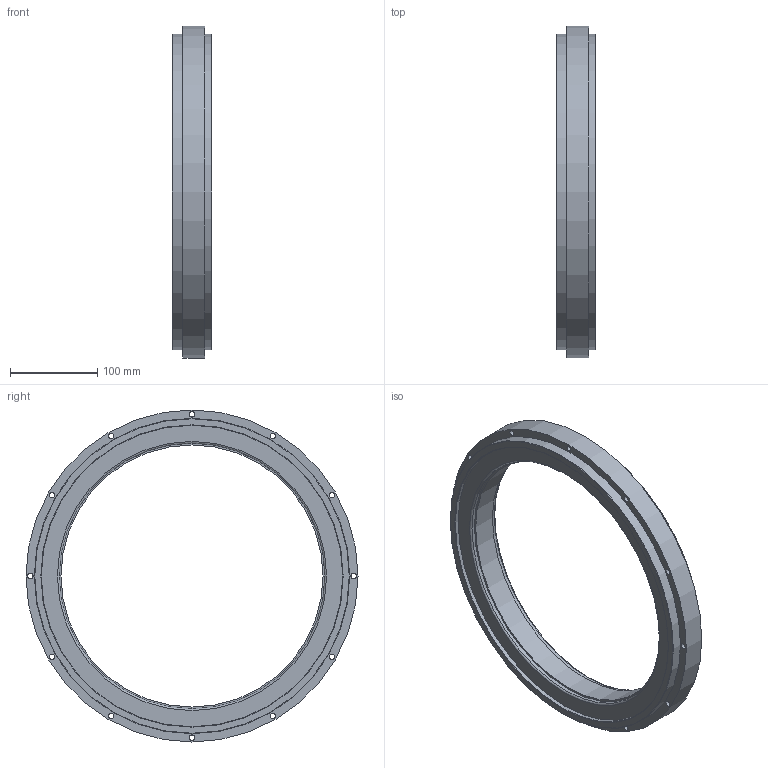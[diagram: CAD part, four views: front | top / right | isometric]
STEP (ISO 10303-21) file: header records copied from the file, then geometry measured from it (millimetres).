
FILE_DESCRIPTION(('STEP AP214'), '1');
FILE_NAME('抸迍.684222.023-20 栺僗闉 380x25', '', ('UNSPECIFIED'), ('UNSPECIFIED'), 'C3D Converter', 'C3D Toolkit', '');
FILE_SCHEMA(('AUTOMOTIVE_DESIGN { 1 0 10303 214 3 1 1}'));
Length unit declared in the file: millimetre
Products named in the file (1): МАНП.684222.023-20
Bounding box: 45 x 380 x 380 mm (x, y, z)
Volume: 1551357.5 mm3; surface area: 184164.8 mm2
Topology: 1 solids, 1 shells, 33 faces, 70 edges, 45 vertices
Faces by surface type: cylinder 20, plane 8, torus 5
Full cylindrical faces by diameter (mm): 6.4 x12, 300 x1, 304 x2, 345 x2, 361 x2, 380 x1
Entity records: 1140 total; most frequent: DIRECTION 158, CARTESIAN_POINT 124, EDGE_LOOP 90, ORIENTED_EDGE 90, AXIS2_PLACEMENT_3D 79, FACE_OUTER_BOUND 50, EDGE_CURVE 45, VERTEX_POINT 45
